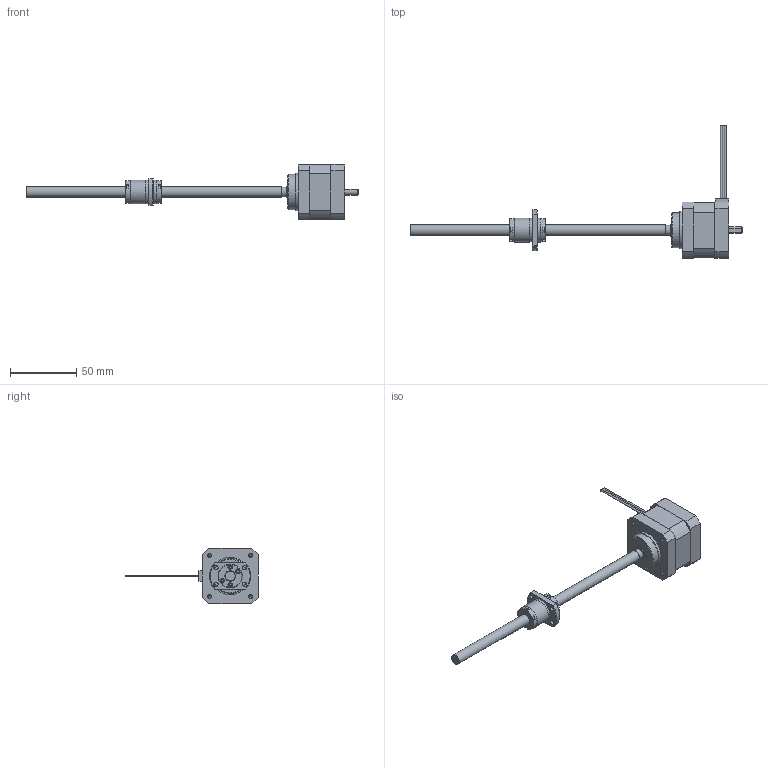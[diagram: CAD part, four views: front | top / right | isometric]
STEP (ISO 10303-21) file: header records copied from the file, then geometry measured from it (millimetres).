
FILE_DESCRIPTION( ( 'STEP AP214' ), ' ' );
FILE_NAME( 'p:/temp/worker_1/3260_1020/app_90_12017090514334909004345260eae72_000000_00_00_000000/format_0/2TMB0812(75).stp', '2017-09-05T12:33:49', ( '' ), ( '' ), ' ', 'PARTsolutions', ' ' );
FILE_SCHEMA( ( 'AUTOMOTIVE_DESIGN { 1 0 10303 214 1 1 1 1 }' ) );
Length unit declared in the file: millimetre
Products named in the file (3): 2TMB0812(75); _2TMB0812 (0)motor; _2TMB0812 (75)nut
Assembly tree (2 placements, depth 2):
  2TMB0812(75)
    _2TMB0812 (0)motor
    _2TMB0812 (75)nut
Bounding box: 250 x 99.5 x 42 mm (x, y, z)
Volume: 80207.4 mm3; surface area: 19462 mm2
Topology: 2 solids, 2 shells, 200 faces, 484 edges, 320 vertices
Faces by surface type: plane 127, cylinder 54, cone 19
Full cylindrical faces by diameter (mm): 1.5 x3, 2 x2, 2.459 x4, 3 x8, 3.4 x4, 7.3 x1, 8 x2, 17.4 x1, 17.5 x1, 17.7 x1, 17.9 x1, 18 x1, 26.5 x1, 28 x1
Entity records: 7197 total; most frequent: CARTESIAN_POINT 976, DIRECTION 957, ORIENTED_EDGE 850, EDGE_CURVE 425, AXIS2_PLACEMENT_3D 339, VERTEX_POINT 310, EDGE_LOOP 287, LINE 279
